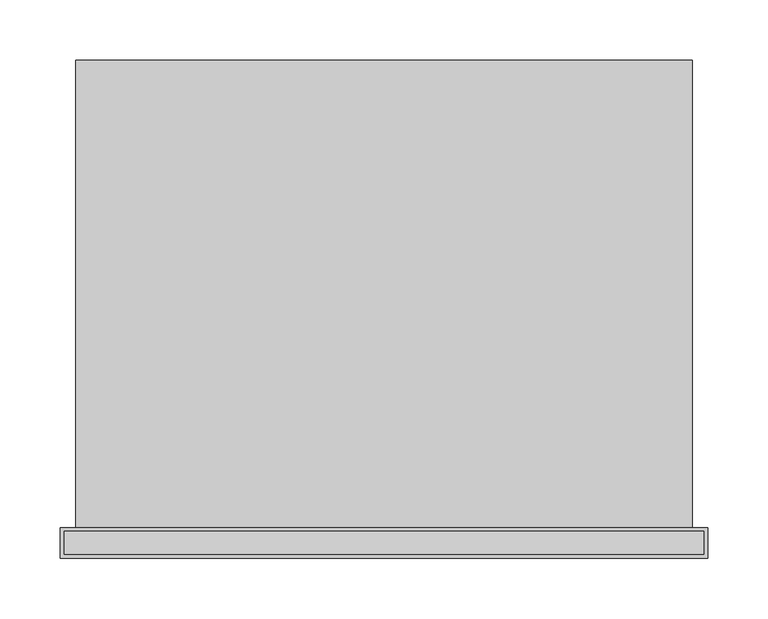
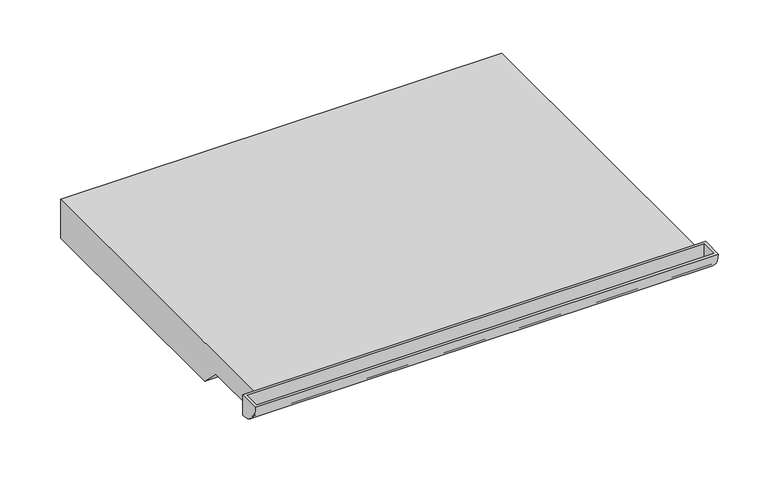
"""IFC4 building model written with IfcOpenShell, lengths in millimetres: furniture geometry."""

from ifc_helpers import new_model, si_unit, frame, origin, place, context, project, spatial, polyline, circle_curve, outline, extrude, source, transform, mapped, element, save
from ifc_brep_helpers import plane_surface, cylinder_surface, revolved_surface, advanced_brep


def furniture_477aaaef(model_context):
    return source(origin(), model_context, "Body", "SolidModel", [
        advanced_brep(
        [(268.2875, -180.975, 590.55), (268.2875, -206.375, 590.55), (268.2875, -180.975, 565.15), (-268.2875, -180.975, 590.55), (-268.2875, -180.975, 565.15), (-268.2875, -206.375, 590.55), (265.1125, -184.15, 590.55), (265.1125, -203.2, 590.55), (-265.1125, -203.2, 590.55), (-265.1125, -184.15, 590.55), (265.1125, -184.15, 568.325), (-265.1125, -184.15, 568.325)],
        [
            (0, 1),
            (1, 2, circle_curve(frame((268.2875, -180.975, 590.55), z_axis=(1.0, 0.0, 0.0), x_axis=(0.0, 1.0, 0.0)), 25.4)),
            (2, 0),
            (3, 4),
            (4, 5, circle_curve(frame((-268.2875, -180.975, 590.55), z_axis=(-1.0, 0.0, 0.0), x_axis=(0.0, 1.0, 0.0)), 25.4)),
            (5, 3),
            (0, 3),
            (5, 1),
            (6, 7),
            (7, 8),
            (8, 9),
            (9, 6),
            (4, 2),
            (6, 10),
            (10, 7, circle_curve(frame((265.1125, -184.0825839, 587.6595709), z_axis=(-1.0, 0.0, 0.0), x_axis=(0.0, 1.0, 0.0)), 19.3346885)),
            (8, 11, circle_curve(frame((-265.1125, -184.0825839, 587.6595709), z_axis=(1.0, 0.0, 0.0), x_axis=(0.0, 1.0, 0.0)), 19.3346885)),
            (11, 9),
            (10, 11),
        ],
        [
            plane_surface(frame((268.2875, -206.375, 590.55), z_axis=(1.0, 0.0, 0.0), x_axis=(0.0, -1.0, 0.0))),
            plane_surface(frame((-268.2875, -206.375, 590.55), z_axis=(-1.0, 0.0, 0.0), x_axis=(0.0, 1.0, 0.0))),
            plane_surface(frame((268.2875, -180.975, 590.55), z_axis=(0.0, 0.0, 1.0), x_axis=(-1.0, 0.0, 0.0))),
            cylinder_surface(frame((-268.2875, -180.975, 590.55), z_axis=(1.0, 0.0, 0.0), x_axis=(0.0, 1.0, 0.0)), 25.4),
            plane_surface(frame((268.2875, -180.975, 565.15), z_axis=(0.0, 1.0, 0.0), x_axis=(-1.0, 0.0, 0.0))),
            plane_surface(frame((265.1125, -203.2, 590.55), z_axis=(-1.0, 0.0, 0.0), x_axis=(0.0, -1.0, 0.0))),
            plane_surface(frame((-265.1125, -203.2, 590.55), z_axis=(1.0, 0.0, 0.0), x_axis=(0.0, 1.0, 0.0))),
            revolved_surface(polyline([(265.1125, -164.7478954, 587.6595709), (-265.1125, -164.7478954, 587.6595709)]), (-265.1125, -184.0825839, 587.6595709), (1.0, 0.0, 0.0)),
            plane_surface(frame((265.1125, -184.15, 568.325), z_axis=(0.0, -1.0, 0.0), x_axis=(-1.0, 0.0, 0.0))),
        ],
        [
            (0, [[1, 2, 3]]),
            (1, [[4, 5, 6]]),
            (2, [[-1, 7, -6, 8], [9, 10, 11, 12]]),
            (3, [[-2, -8, -5, 13]]),
            (4, [[-3, -13, -4, -7]]),
            (5, [[14, 15, -9]]),
            (6, [[16, 17, -11]]),
            (7, [[-15, 18, -16, -10]]),
            (8, [[-14, -12, -17, -18]]),
        ],
    ),
        extrude(outline(polyline([(206.375, 590.55), (206.375, 542.925), (-82.55, 542.925), (-104.775, 565.15), (-180.975, 565.15), (-180.975, 590.55), (206.375, 590.55)])), frame((-255.5875, 0.0, 0.0), z_axis=(1.0, 0.0, 0.0), x_axis=(0.0, 1.0, 0.0)), (0.0, 0.0, 1.0), 511.175),
    ])


if __name__ == "__main__":
    model = new_model("IFC4")
    model_context = context("Model", 3, world=origin())
    ifc_project = project(units=[si_unit("LENGTHUNIT", "METRE", prefix="MILLI")], contexts=[model_context])
    site = spatial("IfcSite", under=ifc_project)
    building = spatial("IfcBuilding", under=site)
    placement = place(None, origin())
    furniture_shape = furniture_477aaaef(model_context)
    element("IfcFurniture", 1, ObjectType="HermanMiller_ThrivePortfolio_Y5010_PencilDrawer : 2\"H x 16\"D x 21\"W", at=placement, inside=building, context=model_context, shape_type="MappedRepresentation", body=[
        mapped(furniture_shape, transform((0.0, 0.0, 0.0), x_axis=(1.0, 0.0, 0.0), y_axis=(0.0, 1.0, 0.0), z_axis=(0.0, 0.0, 1.0))),
    ])
    save(model, "model.ifc")
